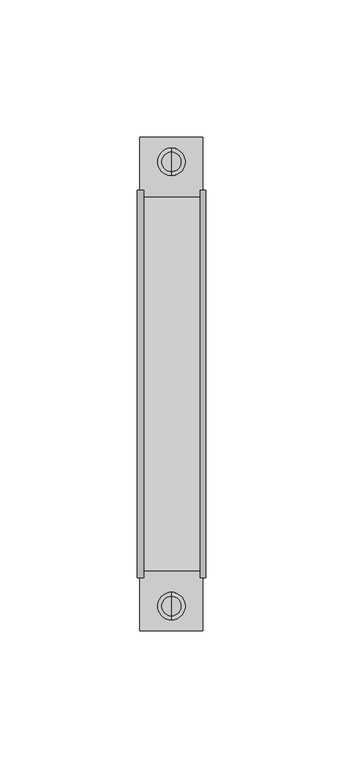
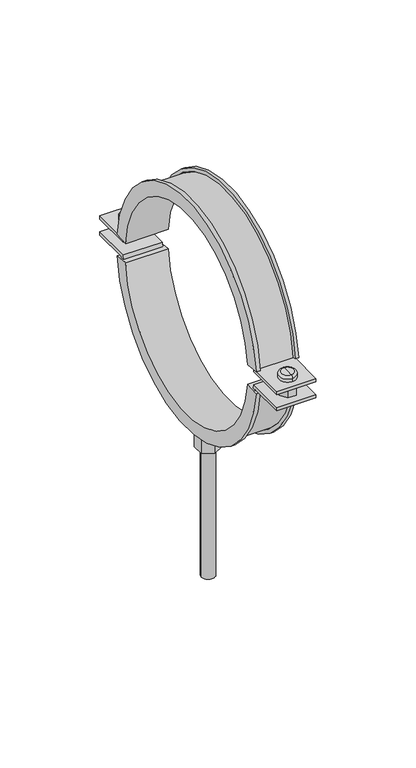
"""IFC4 building model written with IfcOpenShell, lengths in millimetres: pipe fitting geometry, NIRON abrazadera isofonica lisa : Estándard."""

from ifc_helpers import new_model, si_unit, point, frame, origin, origin_2d, place, context, project, spatial, polyline, circle_curve, ellipse_curve, trimmed, segment, composite_curve, outline, extrude, source, transform, mapped, element, save
from ifc_brep_helpers import plane_surface, cylinder_surface, revolved_surface, advanced_brep


def pipe_fitting_cc706b48(model_context):
    return source(origin(), model_context, "Body", "SolidModel", [
        advanced_brep(
        [(0.0, 77.0, -7.8), (0.0, 77.0, -4.8), (0.0, 85.0, -4.8), (0.0, 85.0, -7.8), (0.0, 81.0, -7.8), (0.0, 81.0, -4.8)],
        [
            (0, 1),
            (1, 2, circle_curve(frame((0.0, 81.0, -4.8), z_axis=(0.0, 0.0, -1.0), x_axis=(0.0, 1.0, 0.0)), 4.0)),
            (2, 3),
            (3, 0, circle_curve(frame((0.0, 81.0, -7.8), z_axis=(0.0, 0.0, 1.0), x_axis=(0.0, 1.0, 0.0)), 4.0)),
            (2, 1, circle_curve(frame((0.0, 81.0, -4.8), z_axis=(0.0, 0.0, -1.0), x_axis=(0.0, 1.0, 0.0)), 4.0)),
            (0, 3, circle_curve(frame((0.0, 81.0, -7.8), z_axis=(0.0, 0.0, 1.0), x_axis=(0.0, 1.0, 0.0)), 4.0)),
            (4, 0),
            (3, 4),
            (1, 5),
            (5, 2),
        ],
        [
            cylinder_surface(frame((0.0, 81.0, -110.5332781), z_axis=(0.0, 0.0, -1.0), x_axis=(0.0, 1.0, 0.0)), 4.0),
            plane_surface(frame((0.0, 81.0, -7.8), z_axis=(0.0, 0.0, -1.0), x_axis=(0.0, 1.0, 0.0))),
            plane_surface(frame((0.0, 81.0, -4.8), z_axis=(0.0, 0.0, 1.0), x_axis=(0.0, 1.0, 0.0))),
        ],
        [
            (0, [[1, 2, 3, 4]]),
            (0, [[-3, 5, -1, 6]]),
            (1, [[7, -4, 8]]),
            (1, [[-8, -6, -7]]),
            (2, [[9, 10, -2]]),
            (2, [[-10, -9, -5]]),
        ],
    ),
        advanced_brep(
        [(0.0, 81.0, 4.8), (0.0, 76.0, 4.8), (0.0, 86.0, 4.8), (0.0, 76.0, 7.3), (0.0, 86.0, 7.3), (0.0, 77.5, 8.8), (0.0, 81.0, 8.8), (0.0, 84.5, 8.8)],
        [
            (0, 1),
            (1, 2, circle_curve(frame((0.0, 81.0, 4.8), z_axis=(0.0, 0.0, -1.0), x_axis=(0.0, 1.0, 0.0)), 5.0)),
            (2, 0),
            (2, 1, circle_curve(frame((0.0, 81.0, 4.8), z_axis=(0.0, 0.0, -1.0), x_axis=(0.0, 1.0, 0.0)), 5.0)),
            (1, 3),
            (3, 4, circle_curve(frame((0.0, 81.0, 7.3), z_axis=(0.0, 0.0, -1.0), x_axis=(0.0, 1.0, 0.0)), 5.0)),
            (4, 2),
            (4, 3, circle_curve(frame((0.0, 81.0, 7.3), z_axis=(0.0, 0.0, -1.0), x_axis=(0.0, 1.0, 0.0)), 5.0)),
            (5, 6),
            (6, 7),
            (7, 5, circle_curve(frame((0.0, 81.0, 8.8), z_axis=(0.0, 0.0, 1.0), x_axis=(0.0, 1.0, 0.0)), 3.5)),
            (5, 7, circle_curve(frame((0.0, 81.0, 8.8), z_axis=(0.0, 0.0, 1.0), x_axis=(0.0, 1.0, 0.0)), 3.5)),
            (3, 5, circle_curve(frame((0.0, 77.5, 7.3), z_axis=(-1.0, 0.0, 0.0), x_axis=(0.0, 1.0, 0.0)), 1.5)),
            (7, 4, circle_curve(frame((0.0, 84.5, 7.3), z_axis=(-1.0, 0.0, 0.0), x_axis=(0.0, -1.0, 0.0)), 1.5)),
        ],
        [
            plane_surface(frame((0.0, 81.0, 4.8), z_axis=(0.0, 0.0, -1.0), x_axis=(0.0, 1.0, 0.0))),
            cylinder_surface(frame((0.0, 81.0, 9.8), z_axis=(0.0, 0.0, -1.0), x_axis=(0.0, 1.0, 0.0)), 5.0),
            plane_surface(frame((0.0, 81.0, 8.8), z_axis=(0.0, 0.0, 1.0), x_axis=(0.0, 1.0, 0.0))),
            revolved_surface(trimmed(ellipse_curve(frame((0.0, 84.5, 7.3), z_axis=(-1.0, 0.0, 0.0), x_axis=(0.0, -1.0, 0.0)), 1.5, 1.5), [point((0.0, 84.5, 8.8))], [point((0.0, 86.0, 7.3))], True, "CARTESIAN"), (0.0, 81.0, 9.8), (0.0, 0.0, -1.0)),
        ],
        [
            (0, [[1, 2, 3]]),
            (0, [[-3, 4, -1]]),
            (1, [[5, 6, 7, -2]]),
            (1, [[-7, 8, -5, -4]]),
            (2, [[9, 10, 11]]),
            (2, [[-10, -9, 12]]),
            (3, [[13, -11, 14, -6]]),
            (3, [[-14, -12, -13, -8]]),
        ],
    ),
        advanced_brep(
        [(0.0, -77.0, -7.4875), (0.0, -85.0, -7.4875), (0.0, -85.0, -4.4875), (0.0, -77.0, -4.4875), (0.0, -81.0, -7.4875), (0.0, -81.0, -4.4875)],
        [
            (0, 1, circle_curve(frame((0.0, -81.0, -7.4875), z_axis=(0.0, 0.0, 1.0), x_axis=(0.0, -1.0, 0.0)), 4.0)),
            (1, 2),
            (2, 3, circle_curve(frame((0.0, -81.0, -4.4875), z_axis=(0.0, 0.0, -1.0), x_axis=(0.0, -1.0, 0.0)), 4.0)),
            (3, 0),
            (1, 0, circle_curve(frame((0.0, -81.0, -7.4875), z_axis=(0.0, 0.0, 1.0), x_axis=(0.0, -1.0, 0.0)), 4.0)),
            (3, 2, circle_curve(frame((0.0, -81.0, -4.4875), z_axis=(0.0, 0.0, -1.0), x_axis=(0.0, -1.0, 0.0)), 4.0)),
            (4, 1),
            (0, 4),
            (2, 5),
            (5, 3),
        ],
        [
            cylinder_surface(frame((0.0, -81.0, -110.2207781), z_axis=(0.0, 0.0, -1.0), x_axis=(0.0, -1.0, 0.0)), 4.0),
            plane_surface(frame((0.0, -81.0, -7.4875), z_axis=(0.0, 0.0, -1.0), x_axis=(0.0, -1.0, 0.0))),
            plane_surface(frame((0.0, -81.0, -4.4875), z_axis=(0.0, 0.0, 1.0), x_axis=(0.0, -1.0, 0.0))),
        ],
        [
            (0, [[1, 2, 3, 4]]),
            (0, [[5, -4, 6, -2]]),
            (1, [[7, -1, 8]]),
            (1, [[-8, -5, -7]]),
            (2, [[-3, 9, 10]]),
            (2, [[-6, -10, -9]]),
        ],
    ),
        advanced_brep(
        [(0.0, -81.0, 5.1125), (0.0, -86.0, 5.1125), (0.0, -76.0, 5.1125), (0.0, -86.0, 7.6125), (0.0, -76.0, 7.6125), (0.0, -77.5, 9.1125), (0.0, -84.5, 9.1125), (0.0, -81.0, 9.1125)],
        [
            (0, 1),
            (1, 2, circle_curve(frame((0.0, -81.0, 5.1125), z_axis=(0.0, 0.0, -1.0), x_axis=(0.0, -1.0, 0.0)), 5.0)),
            (2, 0),
            (2, 1, circle_curve(frame((0.0, -81.0, 5.1125), z_axis=(0.0, 0.0, -1.0), x_axis=(0.0, -1.0, 0.0)), 5.0)),
            (1, 3),
            (3, 4, circle_curve(frame((0.0, -81.0, 7.6125), z_axis=(0.0, 0.0, -1.0), x_axis=(0.0, -1.0, 0.0)), 5.0)),
            (4, 2),
            (4, 3, circle_curve(frame((0.0, -81.0, 7.6125), z_axis=(0.0, 0.0, -1.0), x_axis=(0.0, -1.0, 0.0)), 5.0)),
            (5, 6, circle_curve(frame((0.0, -81.0, 9.1125), z_axis=(0.0, 0.0, 1.0), x_axis=(0.0, -1.0, 0.0)), 3.5)),
            (6, 7),
            (7, 5),
            (6, 5, circle_curve(frame((0.0, -81.0, 9.1125), z_axis=(0.0, 0.0, 1.0), x_axis=(0.0, -1.0, 0.0)), 3.5)),
            (3, 6, circle_curve(frame((0.0, -84.5, 7.6125), z_axis=(-1.0, 0.0, 0.0), x_axis=(0.0, 1.0, 0.0)), 1.5)),
            (5, 4, circle_curve(frame((0.0, -77.5, 7.6125), z_axis=(-1.0, 0.0, 0.0), x_axis=(0.0, -1.0, 0.0)), 1.5)),
        ],
        [
            plane_surface(frame((0.0, -81.0, 5.1125), z_axis=(0.0, 0.0, -1.0), x_axis=(0.0, -1.0, 0.0))),
            cylinder_surface(frame((0.0, -81.0, 10.1125), z_axis=(0.0, 0.0, -1.0), x_axis=(0.0, -1.0, 0.0)), 5.0),
            plane_surface(frame((0.0, -81.0, 9.1125), z_axis=(0.0, 0.0, 1.0), x_axis=(0.0, -1.0, 0.0))),
            revolved_surface(trimmed(ellipse_curve(frame((0.0, -84.5, 7.6125), z_axis=(1.0, 0.0, 0.0), x_axis=(0.0, 1.0, 0.0)), 1.5, 1.5), [point((0.0, -84.5, 9.1125))], [point((0.0, -86.0, 7.6125))], True, "CARTESIAN"), (0.0, -81.0, 10.1125), (0.0, 0.0, -1.0)),
        ],
        [
            (0, [[1, 2, 3]]),
            (0, [[-3, 4, -1]]),
            (1, [[-2, 5, 6, 7]]),
            (1, [[-4, -7, 8, -5]]),
            (2, [[9, 10, 11]]),
            (2, [[12, -11, -10]]),
            (3, [[-6, 13, -9, 14]]),
            (3, [[-8, -14, -12, -13]]),
        ],
    ),
        extrude(outline(polyline([(2.5, 76.669873), (-2.5, 76.669873), (-5.0, 81.0), (-2.5, 85.330127), (2.5, 85.330127), (5.0, 81.0), (2.5, 76.669873)])), frame((0.0, 0.0, -4.0), z_axis=(0.0, 0.0, 1.0), x_axis=(1.0, 0.0, 0.0)), (0.0, 0.0, 1.0), 8.0),
        extrude(outline(polyline([(2.5, -76.669873), (5.0, -81.0), (2.5, -85.330127), (-2.5, -85.330127), (-5.0, -81.0), (-2.5, -76.669873), (2.5, -76.669873)])), frame((0.0, 0.0, -4.0), z_axis=(0.0, 0.0, 1.0), x_axis=(1.0, 0.0, 0.0)), (0.0, 0.0, 1.0), 8.0),
        advanced_brep(
        [(12.5, -62.2158452, 6.0), (12.5, -70.6274274, 6.8048502), (10.5, -70.6274274, 6.8048502), (10.5, -68.6365204, 6.6143531), (11.5, -68.6365204, 6.6143531), (11.5, -66.6456133, 6.423856), (-11.5, -66.6456133, 6.423856), (-11.5, -68.6365204, 6.6143531), (-10.0466338, -68.6365204, 6.6143531), (-10.0466338, -70.6274274, 6.8048502), (-12.5, -70.6274274, 6.8048502), (-12.5, -62.2158452, 6.0), (12.5, 62.2158452, 6.0), (-12.5, 62.2158452, 6.0), (-12.5, 70.6274274, 6.8048502), (-10.0466338, 70.6274274, 6.8048502), (-10.0466338, 68.6365204, 6.6143531), (-11.5, 68.6365204, 6.6143531), (-11.5, 66.6456133, 6.423856), (11.5, 66.6456133, 6.423856), (11.5, 68.6365204, 6.6143531), (10.5, 68.6365204, 6.6143531), (10.5, 70.6274274, 6.8048502), (12.5, 70.6274274, 6.8048502)],
        [
            (0, 1),
            (1, 2),
            (2, 3),
            (3, 4),
            (4, 5),
            (5, 6),
            (6, 7),
            (7, 8),
            (8, 9),
            (9, 10),
            (10, 11),
            (11, 0),
            (12, 13),
            (13, 14),
            (14, 15),
            (15, 16),
            (16, 17),
            (17, 18),
            (18, 19),
            (19, 20),
            (20, 21),
            (21, 22),
            (22, 23),
            (23, 12),
            (12, 0, circle_curve(frame((12.5, 0.0, 0.0469661), z_axis=(1.0, 0.0, 0.0), x_axis=(0.0, -0.995453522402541, 0.09524854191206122)), 62.5)),
            (11, 13, circle_curve(frame((-12.5, 0.0, 0.0469661), z_axis=(-1.0, 0.0, 0.0), x_axis=(0.0, -0.995453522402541, 0.09524854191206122)), 62.5)),
            (10, 14, circle_curve(frame((-12.5, 0.0, 0.0469661), z_axis=(-1.0, 0.0, 0.0), x_axis=(0.0, -0.995453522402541, 0.09524854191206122)), 70.95)),
            (9, 15, circle_curve(frame((-10.0466338, 0.0, 0.0469661), z_axis=(-1.0, 0.0, 0.0), x_axis=(0.0, -0.995453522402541, 0.09524854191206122)), 70.95)),
            (8, 16, circle_curve(frame((-10.0466338, 0.0, 0.0469661), z_axis=(-1.0, 0.0, 0.0), x_axis=(0.0, -0.995453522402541, 0.09524854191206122)), 68.95)),
            (7, 17, circle_curve(frame((-11.5, 0.0, 0.0469661), z_axis=(-1.0, 0.0, 0.0), x_axis=(0.0, -0.995453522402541, 0.09524854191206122)), 68.95)),
            (6, 18, circle_curve(frame((-11.5, 0.0, 0.0469661), z_axis=(-1.0, 0.0, 0.0), x_axis=(0.0, -0.995453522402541, 0.09524854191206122)), 66.95)),
            (5, 19, circle_curve(frame((11.5, 0.0, 0.0469661), z_axis=(-1.0, 0.0, 0.0), x_axis=(0.0, -0.995453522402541, 0.09524854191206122)), 66.95)),
            (4, 20, circle_curve(frame((11.5, 0.0, 0.0469661), z_axis=(-1.0, 0.0, 0.0), x_axis=(0.0, -0.995453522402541, 0.09524854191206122)), 68.95)),
            (3, 21, circle_curve(frame((10.5, 0.0, 0.0469661), z_axis=(-1.0, 0.0, 0.0), x_axis=(0.0, -0.995453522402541, 0.09524854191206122)), 68.95)),
            (2, 22, circle_curve(frame((10.5, 0.0, 0.0469661), z_axis=(-1.0, 0.0, 0.0), x_axis=(0.0, -0.995453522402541, 0.09524854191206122)), 70.95)),
            (1, 23, circle_curve(frame((12.5, 0.0, 0.0469661), z_axis=(-1.0, 0.0, 0.0), x_axis=(0.0, -0.995453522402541, 0.09524854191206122)), 70.95)),
        ],
        [
            plane_surface(frame((0.0, -62.2158452, 6.0), z_axis=(0.0, -0.09524854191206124, -0.9954535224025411), x_axis=(1.0, 0.0, 0.0))),
            plane_surface(frame((0.0, 62.2158452, 6.0), z_axis=(0.0, 0.09524854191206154, -0.995453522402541), x_axis=(1.0, 0.0, 0.0))),
            revolved_surface(polyline([(-12.5, -62.21584515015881, 5.999999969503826), (12.5, -62.21584515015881, 5.999999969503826)]), (0.0, 0.0, 0.0469661), (-1.0, 0.0, 0.0)),
            plane_surface(frame((-12.5, 0.0, 0.0469661), z_axis=(-1.0000000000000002, 0.0, 0.0), x_axis=(0.0, -0.9954535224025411, 0.09524854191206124))),
            cylinder_surface(frame((0.0, 0.0, 0.0469661), z_axis=(-1.0, 0.0, 0.0), x_axis=(0.0, -0.995453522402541, 0.09524854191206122)), 70.95),
            plane_surface(frame((-10.0466338, 0.0, 0.0469661), z_axis=(1.0000000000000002, 0.0, 0.0), x_axis=(0.0, -0.9954535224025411, 0.09524854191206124))),
            revolved_surface(polyline([(-11.5, -68.6365203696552, 6.614353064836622), (-10.0466338, -68.6365203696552, 6.614353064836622)]), (0.0, 0.0, 0.0469661), (-1.0, 0.0, 0.0)),
            plane_surface(frame((-11.5, 0.0, 0.0469661), z_axis=(1.0000000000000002, 0.0, 0.0), x_axis=(0.0, -0.9954535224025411, 0.09524854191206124))),
            cylinder_surface(frame((0.0, 0.0, 0.0469661), z_axis=(-1.0, 0.0, 0.0), x_axis=(0.0, -0.995453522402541, 0.09524854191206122)), 66.95),
            plane_surface(frame((11.5, 0.0, 0.0469661), z_axis=(-1.0000000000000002, 0.0, 0.0), x_axis=(0.0, -0.9954535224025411, 0.09524854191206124))),
            revolved_surface(polyline([(10.5, -68.6365203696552, 6.614353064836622), (11.5, -68.6365203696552, 6.614353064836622)]), (0.0, 0.0, 0.0469661), (-1.0, 0.0, 0.0)),
            plane_surface(frame((10.5, 0.0, 0.0469661), z_axis=(-1.0000000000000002, 0.0, 0.0), x_axis=(0.0, -0.9954535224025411, 0.09524854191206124))),
            plane_surface(frame((12.5, 0.0, 0.0469661), z_axis=(1.0000000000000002, 0.0, 0.0), x_axis=(0.0, -0.9954535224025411, 0.09524854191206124))),
        ],
        [
            (0, [[1, 2, 3, 4, 5, 6, 7, 8, 9, 10, 11, 12]]),
            (1, [[13, 14, 15, 16, 17, 18, 19, 20, 21, 22, 23, 24]]),
            (2, [[25, -12, 26, -13]]),
            (3, [[-26, -11, 27, -14]]),
            (4, [[-27, -10, 28, -15]]),
            (5, [[-28, -9, 29, -16]]),
            (6, [[-29, -8, 30, -17]]),
            (7, [[-30, -7, 31, -18]]),
            (8, [[-31, -6, 32, -19]]),
            (9, [[-32, -5, 33, -20]]),
            (10, [[-33, -4, 34, -21]]),
            (11, [[-34, -3, 35, -22]]),
            (4, [[-35, -2, 36, -23]]),
            (12, [[-36, -1, -25, -24]]),
        ],
    ),
        extrude(outline(composite_curve([segment(trimmed(circle_curve(origin_2d(), 66.5), [point((-66.3795902, -4.0))], [point((66.3795902, -4.0))], True, "CARTESIAN"), True, "CONTINUOUS"), segment(polyline([(66.3795902, -4.0), (90.0, -4.0), (90.0, -6.0), (68.2367203, -6.0)]), True, "CONTINUOUS"), segment(trimmed(circle_curve(origin_2d(), 68.5), [point((68.2367203, -6.0))], [point((-68.2367203, -6.0))], False, "CARTESIAN"), True, "CONTINUOUS"), segment(polyline([(-68.2367203, -6.0), (-90.0, -6.0), (-90.0, -4.0), (-66.3795902, -4.0)]), True, "CONTINUOUS")], self_intersect=False)), frame((-11.5, 0.0, 0.0), z_axis=(1.0, 0.0, 0.0), x_axis=(0.0, 1.0, 0.0)), (0.0, 0.0, 1.0), 23.0),
        advanced_brep(
        [(12.5, -62.2113334, -6.0), (-12.5, -62.2113334, -6.0), (-12.5, -70.6223056, -6.8112), (-10.0466338, -70.6223056, -6.8112), (-10.0466338, -68.631543, -6.6192), (-11.5, -68.631543, -6.6192), (-11.5, -66.6407803, -6.4272), (11.5, -66.6407803, -6.4272), (11.5, -68.631543, -6.6192), (10.5, -68.631543, -6.6192), (10.5, -70.6223056, -6.8112), (12.5, -70.6223056, -6.8112), (12.5, 62.2113334, -6.0), (12.5, 70.6223056, -6.8112), (10.5, 70.6223056, -6.8112), (10.5, 68.631543, -6.6192), (11.5, 68.631543, -6.6192), (11.5, 66.6407803, -6.4272), (-11.5, 66.6407803, -6.4272), (-11.5, 68.631543, -6.6192), (-10.0466338, 68.631543, -6.6192), (-10.0466338, 70.6223056, -6.8112), (-12.5, 70.6223056, -6.8112), (-12.5, 62.2113334, -6.0)],
        [
            (0, 1),
            (1, 2),
            (2, 3),
            (3, 4),
            (4, 5),
            (5, 6),
            (6, 7),
            (7, 8),
            (8, 9),
            (9, 10),
            (10, 11),
            (11, 0),
            (12, 13),
            (13, 14),
            (14, 15),
            (15, 16),
            (16, 17),
            (17, 18),
            (18, 19),
            (19, 20),
            (20, 21),
            (21, 22),
            (22, 23),
            (23, 12),
            (23, 1, circle_curve(frame((-12.5, 0.0, 0.0), z_axis=(-1.0, 0.0, 0.0), x_axis=(0.0, -0.9953813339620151, -0.09599999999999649)), 62.5)),
            (0, 12, circle_curve(frame((12.5, 0.0, 0.0), z_axis=(1.0, 0.0, 0.0), x_axis=(0.0, -0.9953813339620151, -0.09599999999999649)), 62.5)),
            (22, 2, circle_curve(frame((-12.5, 0.0, 0.0), z_axis=(-1.0, 0.0, 0.0), x_axis=(0.0, -0.9953813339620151, -0.09599999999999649)), 70.95)),
            (21, 3, circle_curve(frame((-10.0466338, 0.0, 0.0), z_axis=(-1.0, 0.0, 0.0), x_axis=(0.0, -0.9953813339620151, -0.09599999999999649)), 70.95)),
            (20, 4, circle_curve(frame((-10.0466338, 0.0, 0.0), z_axis=(-1.0, 0.0, 0.0), x_axis=(0.0, -0.9953813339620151, -0.09599999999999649)), 68.95)),
            (19, 5, circle_curve(frame((-11.5, 0.0, 0.0), z_axis=(-1.0, 0.0, 0.0), x_axis=(0.0, -0.9953813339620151, -0.09599999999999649)), 68.95)),
            (18, 6, circle_curve(frame((-11.5, 0.0, 0.0), z_axis=(-1.0, 0.0, 0.0), x_axis=(0.0, -0.9953813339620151, -0.09599999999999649)), 66.95)),
            (17, 7, circle_curve(frame((11.5, 0.0, 0.0), z_axis=(-1.0, 0.0, 0.0), x_axis=(0.0, -0.9953813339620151, -0.09599999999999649)), 66.95)),
            (16, 8, circle_curve(frame((11.5, 0.0, 0.0), z_axis=(-1.0, 0.0, 0.0), x_axis=(0.0, -0.9953813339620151, -0.09599999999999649)), 68.95)),
            (15, 9, circle_curve(frame((10.5, 0.0, 0.0), z_axis=(-1.0, 0.0, 0.0), x_axis=(0.0, -0.9953813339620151, -0.09599999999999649)), 68.95)),
            (14, 10, circle_curve(frame((10.5, 0.0, 0.0), z_axis=(-1.0, 0.0, 0.0), x_axis=(0.0, -0.9953813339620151, -0.09599999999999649)), 70.95)),
            (13, 11, circle_curve(frame((12.5, 0.0, 0.0), z_axis=(-1.0, 0.0, 0.0), x_axis=(0.0, -0.9953813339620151, -0.09599999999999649)), 70.95)),
        ],
        [
            plane_surface(frame((0.0, -62.2113334, -6.0), z_axis=(0.0, -0.09599999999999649, 0.9953813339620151), x_axis=(1.0, 0.0, 0.0))),
            plane_surface(frame((0.0, 62.2113334, -6.0), z_axis=(0.0, 0.09599999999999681, 0.9953813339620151), x_axis=(1.0, 0.0, 0.0))),
            revolved_surface(polyline([(12.5, -62.211333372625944, -5.999999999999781), (-12.5, -62.211333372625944, -5.999999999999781)]), (0.0, 0.0, 0.0), (1.0, 0.0, 0.0)),
            plane_surface(frame((-12.5, 0.0, 0.0), z_axis=(-1.0, 0.0, 0.0), x_axis=(0.0, -0.9953813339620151, -0.09599999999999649))),
            cylinder_surface(frame((0.0, 0.0, 0.0), z_axis=(1.0, 0.0, 0.0), x_axis=(0.0, -0.9953813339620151, -0.09599999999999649)), 70.95),
            plane_surface(frame((-10.0466338, 0.0, 0.0), z_axis=(1.0, 0.0, 0.0), x_axis=(0.0, -0.9953813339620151, -0.09599999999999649))),
            revolved_surface(polyline([(-10.0466338, -68.63154297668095, -6.619199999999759), (-11.5, -68.63154297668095, -6.619199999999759)]), (0.0, 0.0, 0.0), (1.0, 0.0, 0.0)),
            plane_surface(frame((-11.5, 0.0, 0.0), z_axis=(1.0, 0.0, 0.0), x_axis=(0.0, -0.9953813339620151, -0.09599999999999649))),
            cylinder_surface(frame((0.0, 0.0, 0.0), z_axis=(1.0, 0.0, 0.0), x_axis=(0.0, -0.9953813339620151, -0.09599999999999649)), 66.95),
            plane_surface(frame((11.5, 0.0, 0.0), z_axis=(-1.0, 0.0, 0.0), x_axis=(0.0, -0.9953813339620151, -0.09599999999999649))),
            revolved_surface(polyline([(11.5, -68.63154297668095, -6.619199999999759), (10.5, -68.63154297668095, -6.619199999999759)]), (0.0, 0.0, 0.0), (1.0, 0.0, 0.0)),
            plane_surface(frame((10.5, 0.0, 0.0), z_axis=(-1.0, 0.0, 0.0), x_axis=(0.0, -0.9953813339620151, -0.09599999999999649))),
            plane_surface(frame((12.5, 0.0, 0.0), z_axis=(1.0, 0.0, 0.0), x_axis=(0.0, -0.9953813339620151, -0.09599999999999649))),
        ],
        [
            (0, [[1, 2, 3, 4, 5, 6, 7, 8, 9, 10, 11, 12]]),
            (1, [[13, 14, 15, 16, 17, 18, 19, 20, 21, 22, 23, 24]]),
            (2, [[25, -1, 26, -24]]),
            (3, [[27, -2, -25, -23]]),
            (4, [[28, -3, -27, -22]]),
            (5, [[29, -4, -28, -21]]),
            (6, [[30, -5, -29, -20]]),
            (7, [[31, -6, -30, -19]]),
            (8, [[32, -7, -31, -18]]),
            (9, [[33, -8, -32, -17]]),
            (10, [[34, -9, -33, -16]]),
            (11, [[35, -10, -34, -15]]),
            (4, [[36, -11, -35, -14]]),
            (12, [[-26, -12, -36, -13]]),
        ],
    ),
        extrude(outline(composite_curve([segment(trimmed(circle_curve(origin_2d(), 68.5), [point((-68.2367203, 6.0))], [point((68.2367203, 6.0))], False, "CARTESIAN"), True, "CONTINUOUS"), segment(polyline([(68.2367203, 6.0), (90.0, 6.0), (90.0, 4.0), (66.3795902, 4.0)]), True, "CONTINUOUS"), segment(trimmed(circle_curve(origin_2d(), 66.5), [point((66.3795902, 4.0))], [point((-66.3795902, 4.0))], True, "CARTESIAN"), True, "CONTINUOUS"), segment(polyline([(-66.3795902, 4.0), (-90.0, 4.0), (-90.0, 6.0), (-68.2367203, 6.0)]), True, "CONTINUOUS")], self_intersect=False)), frame((-11.5, 0.0, 0.0), z_axis=(1.0, 0.0, 0.0), x_axis=(0.0, 1.0, 0.0)), (0.0, 0.0, 1.0), 23.0),
        extrude(outline(composite_curve([segment(trimmed(circle_curve(origin_2d(), 4.0), [point((-4.0, 0.0))], [point((4.0, 0.0))], False, "CARTESIAN"), True, "CONTINUOUS"), segment(trimmed(circle_curve(origin_2d(), 4.0), [point((4.0, 0.0))], [point((-4.0, 0.0))], False, "CARTESIAN"), True, "CONTINUOUS")], self_intersect=False)), frame((0.0, 0.0, -166.5), z_axis=(0.0, 0.0, 1.0), x_axis=(1.0, 0.0, 0.0)), (0.0, 0.0, 1.0), 100.0),
        extrude(outline(polyline([(-6.0621778, 3.5), (0.0, 7.0), (6.0621778, 3.5), (6.0621778, -3.5), (0.0, -7.0), (-6.0621778, -3.5), (-6.0621778, 3.5)])), frame((0.0, 0.0, -86.8), z_axis=(0.0, 0.0, 1.0), x_axis=(1.0, 0.0, 0.0)), (0.0, 0.0, 1.0), 20.3),
    ])


if __name__ == "__main__":
    model = new_model("IFC4")
    model_context = context("Model", 3, world=origin())
    ifc_project = project(units=[si_unit("LENGTHUNIT", "METRE", prefix="MILLI")], contexts=[model_context])
    site = spatial("IfcSite", under=ifc_project)
    building = spatial("IfcBuilding", under=site)
    placement = place(None, origin())
    pipe_fitting_shape = pipe_fitting_cc706b48(model_context)
    element("IfcPipeFitting", 1, ObjectType="NIRON abrazadera isofonica lisa : Estándard", at=placement, inside=building, context=model_context, shape_type="MappedRepresentation", body=[
        mapped(pipe_fitting_shape, transform((0.0, 0.0, 0.0), x_axis=(1.0, 0.0, 0.0), y_axis=(0.0, 1.0, 0.0), z_axis=(0.0, 0.0, 1.0))),
    ])
    save(model, "model.ifc")
